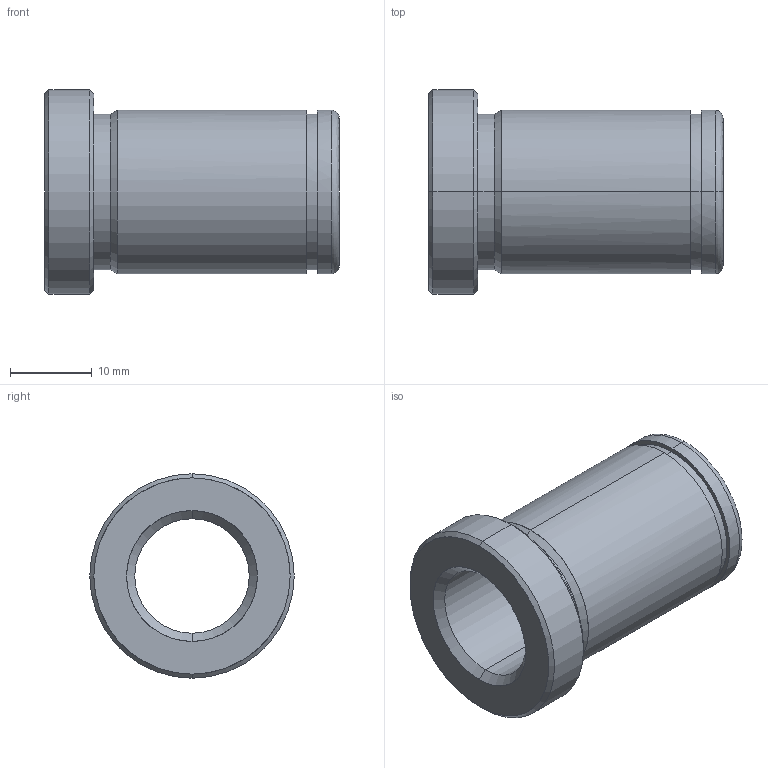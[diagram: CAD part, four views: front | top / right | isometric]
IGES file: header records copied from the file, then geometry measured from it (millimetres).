
Start section: START RECORD GO HERE.
Global section: file name: 553-14X36.igs; native system: DASSAULT SYSTEMES CATIA V5 R20 - www.3ds.com; preprocessor: CATIA Version 5 Release 20 ; author: Utente; organization: NB04-ASUS; date: 20210521.202545; units: millimetre
Bounding box: 36 x 25 x 25 mm (x, y, z)
Surface area: 4576 mm2 (no closed solid volume)
Topology: 0 solids, 0 shells, 29 faces, 184 edges, 184 vertices
Faces by surface type: revolution 24, plane 5
